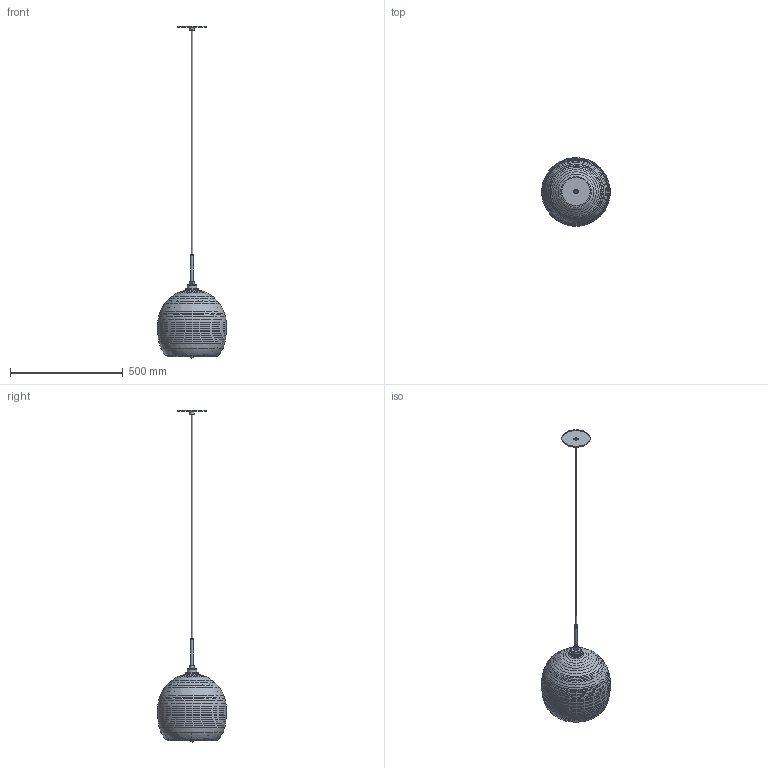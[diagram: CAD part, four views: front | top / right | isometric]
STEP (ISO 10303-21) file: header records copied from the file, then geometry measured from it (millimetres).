
FILE_DESCRIPTION(/* description */ (''),/* implementation_level */ '2;1');
FILE_NAME(/* name */ 'C:/Users/zach/Niche/Product Development - Documents/CAD Models/Pendants/Stamen/CAD Models/Glass - Luxe Hardware/Niche - Stamen Pendant.step',/* time_stamp */ '2022-07-27T16:07:41-04:00',/* author */ (''),/* organization */ (''),/* preprocessor_version */ 'ST-DEVELOPER v19',/* originating_system */ 'Autodesk Translation Framework v11.7.0.108',/* authorisation */ '');
FILE_SCHEMA (('AUTOMOTIVE_DESIGN { 1 0 10303 214 3 1 1 }'));
Length unit declared in the file: inch
Products named in the file (1): Stamen
Bounding box: 304.93 x 304.93 x 1474.72 mm (x, y, z)
Volume: 1214616.1 mm3; surface area: 754963.3 mm2
Topology: 12 solids, 12 shells, 320 faces, 820 edges, 529 vertices
Faces by surface type: cylinder 153, cone 76, plane 58, bspline 29, torus 3, sphere 1
Full cylindrical faces by diameter (mm): 4.355 x4, 4.529 x1, 4.927 x9, 5.08 x1, 6.096 x1, 6.35 x1, 6.5 x1, 7.62 x1, 7.744 x7, 8.036 x15, 8.852 x1, 8.884 x8, 9.035 x1, 9.146 x11, 10.16 x1, 12.7 x2, 19.05 x1, 19.2 x1, 25.4 x1, 26.022 x1, 34.97 x1, 35.052 x9, 37.85 x8, 39 x1, 39.35 x1, 41.035 x1, 41.2 x1, 41.884 x1, 44 x1, 55 x2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
Entity records: 21229 total; most frequent: CARTESIAN_POINT 13870, ORIENTED_EDGE 1638, DIRECTION 1338, EDGE_CURVE 819, VERTEX_POINT 529, AXIS2_PLACEMENT_3D 525, EDGE_LOOP 350, FACE_OUTER_BOUND 320
